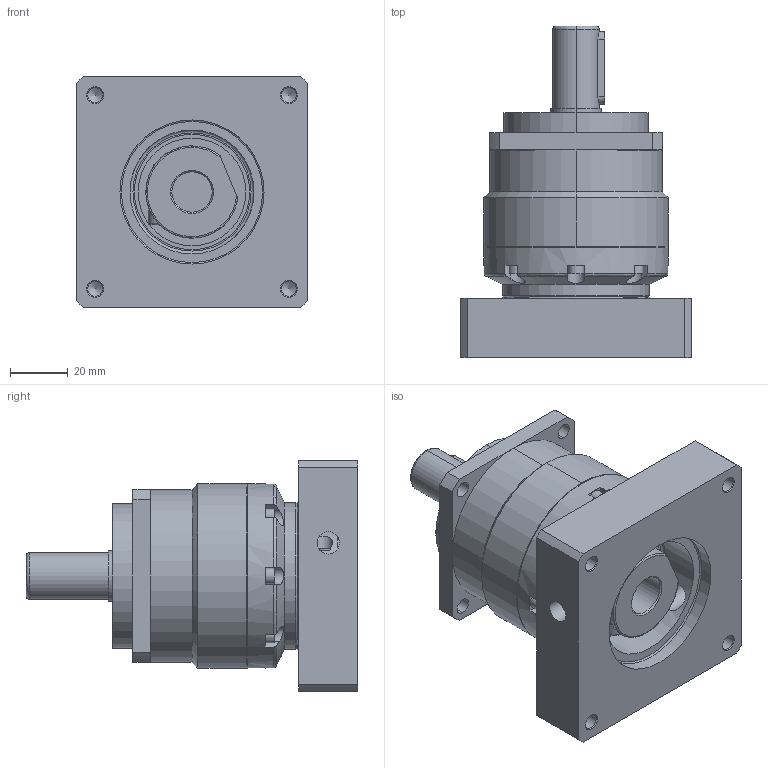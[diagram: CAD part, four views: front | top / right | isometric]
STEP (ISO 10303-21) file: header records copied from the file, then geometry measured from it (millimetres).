
FILE_DESCRIPTION(/* description */ (''),/* implementation_level */ '2;1');
FILE_NAME(/* name */ 'WEB060-L1-50-95-M6-14-31.5.stp',/* time_stamp */ '2026-10-07T10:04:27+08:00',/* author */ (''),/* organization */ (''),/* preprocessor_version */ 'ST-DEVELOPER v16.7',/* originating_system */ 'SIEMENS PLM Software NX 12.0',/* authorisation */ '');
FILE_SCHEMA (('AUTOMOTIVE_DESIGN { 1 0 10303 214 3 1 1 1 }'));
Length unit declared in the file: millimetre
Products named in the file (12): Body_9_sldprt185; Body_8_sldprt186; Body_7_sldprt187; Body_6_sldprt188; Body_5_sldprt189; Body_4_sldprt190; Body_3_sldprt191; Body_2_sldprt192; Body_sldprt193; WVRB060-DZ-50-95-M5; WVRB060-HG-S-B195; WEB060-L1-50-95-M6-14-31.5_stp
Assembly tree (11 placements, depth 3):
  WEB060-L1-50-95-M6-14-31.5_stp
    WVRB060-HG-S-B195
      Body_sldprt193
      Body_2_sldprt192
      Body_3_sldprt191
      Body_4_sldprt190
      Body_5_sldprt189
      Body_6_sldprt188
      Body_7_sldprt187
      Body_8_sldprt186
      Body_9_sldprt185
    WVRB060-DZ-50-95-M5
Bounding box: 80 x 115 x 80 mm (x, y, z)
Volume: 291923.7 mm3; surface area: 64602.1 mm2
Topology: 12 solids, 13 shells, 306 faces, 696 edges, 450 vertices
Faces by surface type: plane 157, cylinder 96, cone 33, torus 20
Full cylindrical faces by diameter (mm): 3.3 x6, 3.4 x8, 4.8 x2, 5.2 x4, 5.3 x1, 5.5 x8, 7.8 x2, 8 x1, 8.5 x1, 14 x1, 20 x2, 28 x1, 30 x1, 32 x1, 35 x1, 37 x2, 37.4 x1, 38.12 x1, 40 x2, 43 x1, 47.5 x1, 50 x1, 51 x1, 52 x1, 52.4 x1, 64 x1
Entity records: 8954 total; most frequent: CARTESIAN_POINT 2052, DIRECTION 1407, ORIENTED_EDGE 1168, EDGE_CURVE 584, AXIS2_PLACEMENT_3D 556, EDGE_LOOP 462, VERTEX_POINT 436, FACE_BOUND 307
